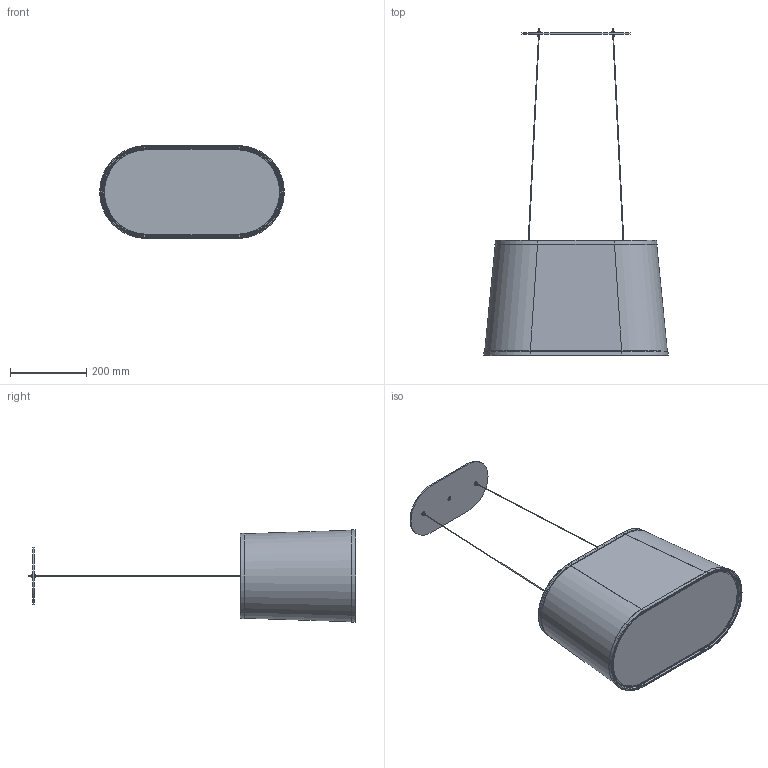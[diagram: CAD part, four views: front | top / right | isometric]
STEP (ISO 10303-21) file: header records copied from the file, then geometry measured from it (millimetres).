
FILE_DESCRIPTION( ( 'STEP AP203' ), '1' );
FILE_NAME( '//srvbf/BF Disegni/EVITA/EVITA-S Sospensione 3D.stp', '2020-10-16T15:47:54', ( ' ' ), ( ' ' ), 'XStep 1.0', ' ', ' ' );
FILE_SCHEMA( ( 'CONFIG_CONTROL_DESIGN) ( )' ) );
Length unit declared in the file: metre
Products named in the file (21): Assem1; 1; 2; 3; 4; 5; 6; 7; 8; 9; 10; 11; 12; 13; 14; 15; 16; 17; 18; 19; 20
Bounding box: 483.03 x 856.03 x 243.03 mm (x, y, z)
Volume: 1405161.1 mm3; surface area: 2341638.9 mm2
Topology: 40 solids, 40 shells, 310 faces, 638 edges, 396 vertices
Faces by surface type: plane 116, cylinder 106, torus 56, cone 20, bspline 8, sphere 4
Full cylindrical faces by diameter (mm): 2 x4, 3 x8, 3.952 x4, 4 x8, 4.8 x4, 5 x4, 8 x4, 9 x4, 10 x4, 11 x2
Entity records: 4960 total; most frequent: DIRECTION 784, CARTESIAN_POINT 716, ORIENTED_EDGE 560, AXIS2_PLACEMENT_3D 332, EDGE_CURVE 280, EDGE_LOOP 212, VERTEX_POINT 192, FACE_OUTER_BOUND 184
